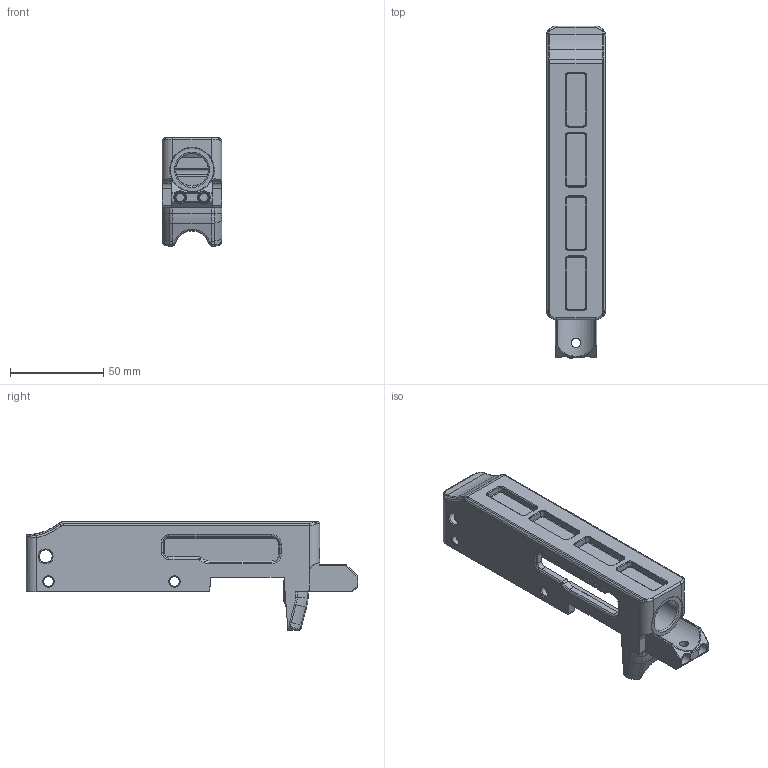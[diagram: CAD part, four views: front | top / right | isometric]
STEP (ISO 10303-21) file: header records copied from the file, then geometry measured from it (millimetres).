
FILE_DESCRIPTION(/* description */ (''),/* implementation_level */ '2;1');
FILE_NAME(/* name */ 'C:/Users/FFFTech/3D Objects/The Bad Stuff/Firearms Related/Firearms Parts/10-22 Parts/Receivers/L-X22 Receivers/STEP Files/Model O/L-X22 Model O.step',/* time_stamp */ '2021-08-08T16:48:52-04:00',/* author */ (''),/* organization */ (''),/* preprocessor_version */ 'ST-DEVELOPER v18.1',/* originating_system */ 'Autodesk Translation Framework v10.9.0.1377',/* authorisation */ '');
FILE_SCHEMA (('AUTOMOTIVE_DESIGN { 1 0 10303 214 3 1 1 }'));
Length unit declared in the file: millimetre
Products named in the file (1): LX22 Model O
Bounding box: 31.95 x 177.8 x 58.3 mm (x, y, z)
Volume: 81653.7 mm3; surface area: 36388.7 mm2
Topology: 1 solids, 1 shells, 479 faces, 1203 edges, 720 vertices
Faces by surface type: cylinder 146, plane 122, bspline 109, torus 62, cone 38, sphere 2
Full cylindrical faces by diameter (mm): 1.6 x1, 4.648 x2, 5 x1, 5.175 x4, 6.426 x2, 6.95 x1, 15.6 x1, 17.45 x1, 23.393 x1
Entity records: 17269 total; most frequent: CARTESIAN_POINT 6203, ORIENTED_EDGE 2386, DIRECTION 2227, EDGE_CURVE 1193, AXIS2_PLACEMENT_3D 873, VERTEX_POINT 720, EDGE_LOOP 505, LINE 481
